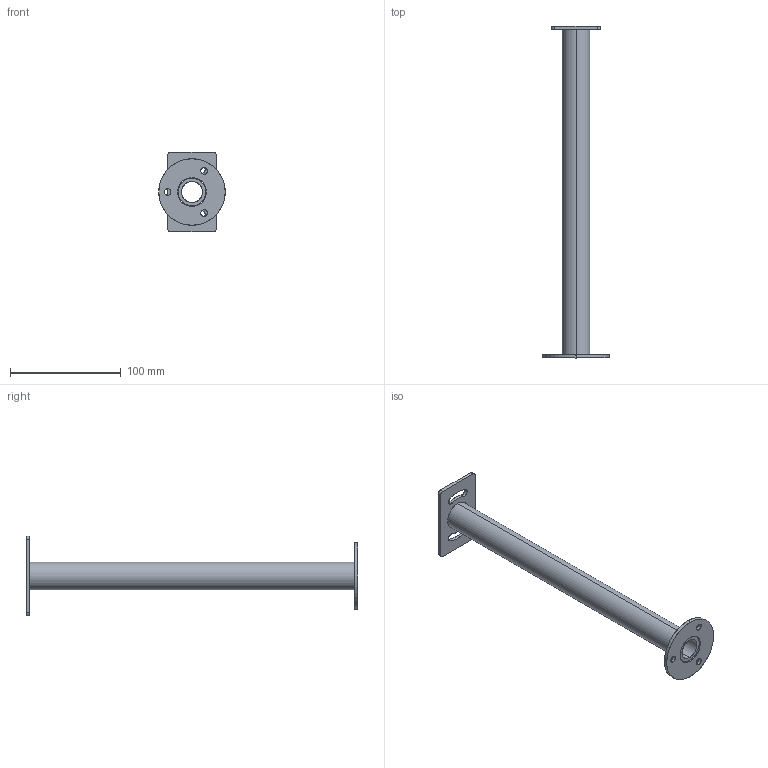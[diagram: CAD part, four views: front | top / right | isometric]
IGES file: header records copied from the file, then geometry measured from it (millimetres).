
Start section: SolidWorks IGES file using analytic representation for surfaces
Global section: file name: C:\Users\User2\Desktop\Lego IGS\Ñòîéêà íà êîëûøåê Lego h300.IGS; native system: SolidWorks 2024; preprocessor: SolidWorks 2024; author: User2; date: 251022.124914; units: millimetre
Bounding box: 60 x 300 x 72 mm (x, y, z)
Surface area: 52896.6 mm2 (no closed solid volume)
Topology: 0 solids, 0 shells, 40 faces, 976 edges, 976 vertices
Faces by surface type: revolution 30, bspline 10
